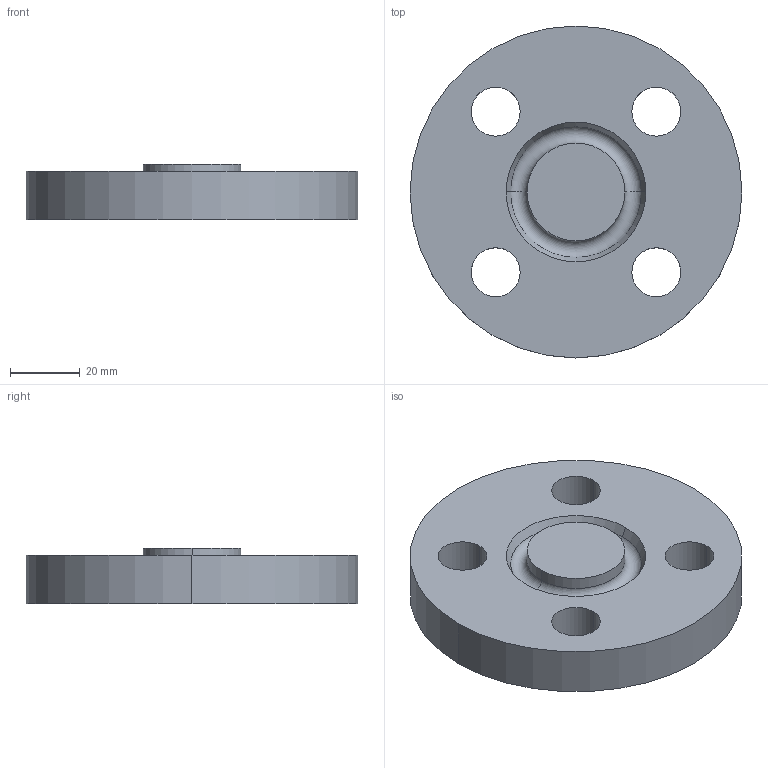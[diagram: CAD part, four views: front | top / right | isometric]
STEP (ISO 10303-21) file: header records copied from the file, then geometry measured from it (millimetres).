
FILE_DESCRIPTION (( 'STEP AP214' ), '1' );
FILE_NAME ('PN40 DN15 Type 05 - Type H Face.STEP', '2018-12-29T15:05:05', ( '' ), ( '' ), 'SwSTEP 2.0', 'SolidWorks 2019', '' );
FILE_SCHEMA (( 'AUTOMOTIVE_DESIGN' ));
Length unit declared in the file: millimetre
Products named in the file (1): PN40 DN15 Type 05 - Type H Face
Bounding box: 95 x 95 x 16 mm (x, y, z)
Volume: 89922 mm3; surface area: 20283.5 mm2
Topology: 1 solids, 1 shells, 19 faces, 44 edges, 28 vertices
Faces by surface type: cylinder 12, plane 3, torus 2, cone 2
Entity records: 606 total; most frequent: DIRECTION 114, CARTESIAN_POINT 92, ORIENTED_EDGE 88, AXIS2_PLACEMENT_3D 50, EDGE_CURVE 44, CIRCLE 30, VERTEX_POINT 28, EDGE_LOOP 28
